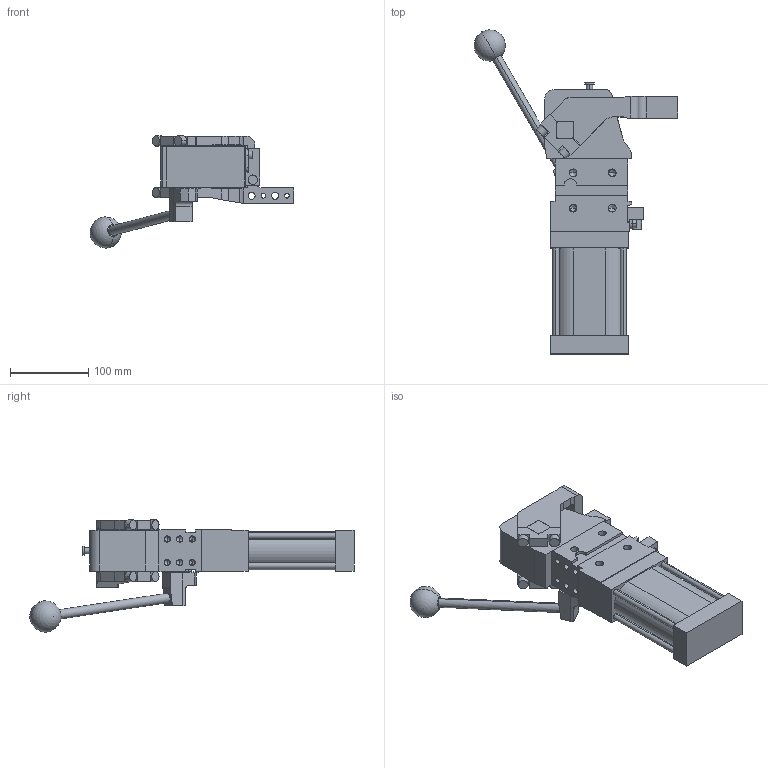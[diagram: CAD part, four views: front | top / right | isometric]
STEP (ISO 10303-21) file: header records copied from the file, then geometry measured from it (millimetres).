
FILE_DESCRIPTION (( 'STEP AP214' ), '1' );
FILE_NAME ('cplm63lbv1dsi1g_16.STEP', '2023-01-26T14:32:36', ( '' ), ( '' ), 'SwSTEP 2.0', 'SolidWorks 2022', '' );
FILE_SCHEMA (( 'AUTOMOTIVE_DESIGN' ));
Length unit declared in the file: millimetre
Products named in the file (5): cplm63lbv1dsi1g_16; blocchetto_VEP_0; leva_sx_offset_15_cpl63; comando_manuale_cplm_63; meccanica_cplm_63
Assembly tree (4 placements, depth 2):
  cplm63lbv1dsi1g_16
    meccanica_cplm_63
    blocchetto_VEP_0
    leva_sx_offset_15_cpl63
    comando_manuale_cplm_63
Bounding box: 260.54 x 414.46 x 143.5 mm (x, y, z)
Volume: 1866260.9 mm3; surface area: 206781.4 mm2
Topology: 4 solids, 4 shells, 430 faces, 1128 edges, 699 vertices
Faces by surface type: plane 217, cylinder 161, cone 50, sphere 2
Entity records: 14523 total; most frequent: CARTESIAN_POINT 2312, DIRECTION 2297, ORIENTED_EDGE 2154, EDGE_CURVE 1077, AXIS2_PLACEMENT_3D 795, LINE 707, VECTOR 707, VERTEX_POINT 696
